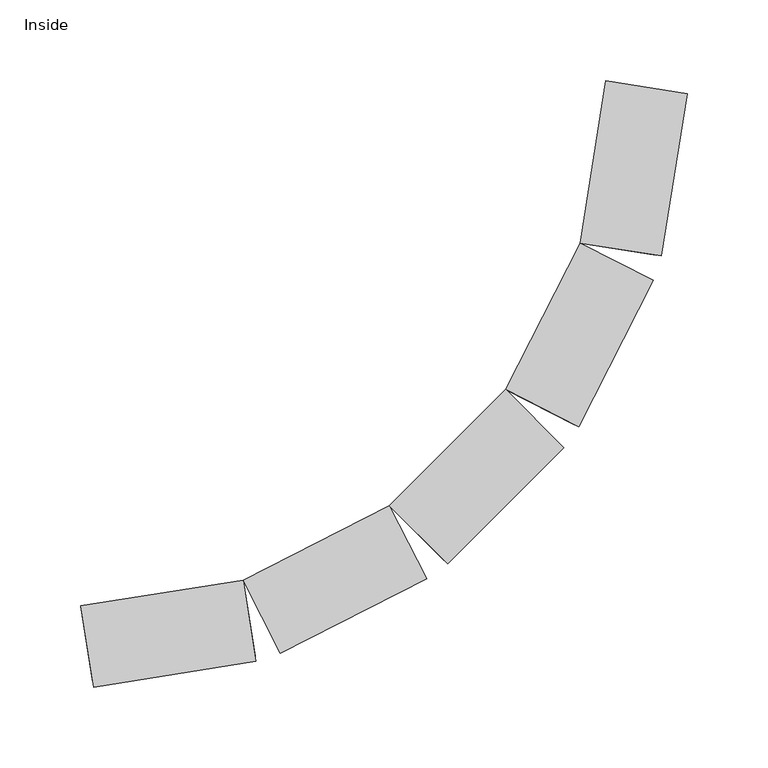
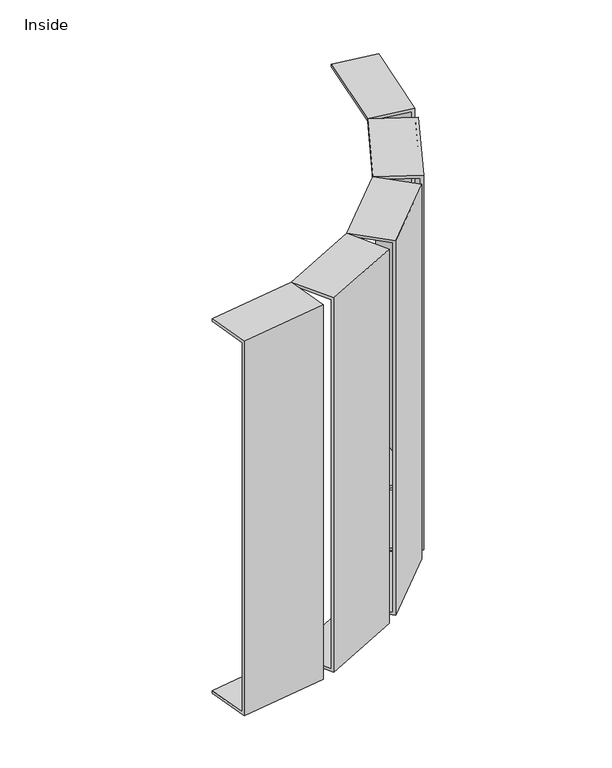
"""IFC4 building model written with IfcOpenShell, lengths in millimetres: cable carrier fitting geometry, Bend-Vertical-Cablofil-Wire_Mesh_Cable_Tray-Cablobend : Inside."""

from ifc_helpers import new_model, si_unit, frame, origin, place, context, project, spatial, polyline, outline, extrude, source, transform, mapped, element, save


def inside_2fadb0b0(model_context):
    return source(origin(), model_context, "Body", "SweptSolid", [
        extrude(outline(polyline([(-50.8, 0.0), (0.0, 0.0), (0.0, -457.2), (-50.8, -457.2), (-50.8, -454.025), (-3.175, -454.025), (-3.175, -3.175), (-50.8, -3.175), (-50.8, 0.0)])), frame((-123.3402009, 51.4981519, -228.6), z_axis=(0.7071067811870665, 0.7071067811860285, 0.0), x_axis=(0.7071067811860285, -0.7071067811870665, 0.0)), (0.0, 0.0, 1.0), 101.6),
        extrude(outline(polyline([(-50.8, 0.0), (0.0, 0.0), (0.0, -457.2), (-50.8, -457.2), (-50.8, -454.025), (-3.175, -454.025), (-3.175, -3.175), (-50.8, -3.175), (-50.8, 0.0)])), frame((-342.1897528, -24.7745677, -228.6), z_axis=(0.9876883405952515, 0.15643446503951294, 0.0), x_axis=(0.15643446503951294, -0.9876883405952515, 0.0)), (0.0, 0.0, 1.0), 101.6),
        extrude(outline(polyline([(-50.8, 0.0), (0.0, 0.0), (0.0, -457.2), (-50.8, -457.2), (-50.8, -454.025), (-3.175, -454.025), (-3.175, -3.175), (-50.8, -3.175), (-50.8, 0.0)])), frame((8.8808261, 241.8406174, -228.6), z_axis=(0.15643446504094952, 0.9876883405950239, 0.0), x_axis=(0.9876883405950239, -0.15643446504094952, 0.0)), (0.0, 0.0, 1.0), 101.6),
        extrude(outline(polyline([(-50.7999999, 0.0), (0.0, 0.0), (0.0, -457.2), (-50.7999999, -457.2), (-50.7999999, -454.025), (-3.175, -454.025), (-3.175, -3.175), (-50.7999999, -3.175), (-50.7999999, 0.0)])), frame((-226.7247709, -3.9693898, -228.6), z_axis=(0.8910065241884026, 0.45399049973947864, 0.0), x_axis=(0.45399049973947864, -0.8910065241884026, 0.0)), (0.0, 0.0, 1.0), 101.6),
        extrude(outline(polyline([(-50.8, 0.0), (0.0, 0.0), (0.0, -457.2), (-50.8, -457.2), (-50.8, -454.025), (-3.175, -454.025), (-3.175, -3.175), (-50.8, -3.175), (-50.8, 0.0)])), frame((-42.156045, 136.198508, -228.6), z_axis=(0.4539904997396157, 0.8910065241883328, 0.0), x_axis=(0.8910065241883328, -0.4539904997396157, 0.0)), (0.0, 0.0, 1.0), 101.6),
    ])


if __name__ == "__main__":
    model = new_model("IFC4")
    model_context = context("Model", 3, world=origin())
    ifc_project = project(units=[si_unit("LENGTHUNIT", "METRE", prefix="MILLI")], contexts=[model_context])
    site = spatial("IfcSite", under=ifc_project)
    building = spatial("IfcBuilding", under=site)
    placement = place(None, origin())
    inside_shape = inside_2fadb0b0(model_context)
    element("IfcCableCarrierFitting", 1, ObjectType="Bend-Vertical-Cablofil-Wire_Mesh_Cable_Tray-Cablobend : Inside", at=placement, inside=building, context=model_context, shape_type="MappedRepresentation", body=[
        mapped(inside_shape, transform((0.0, 0.0, 0.0), x_axis=(1.0, 0.0, 0.0), y_axis=(0.0, 1.0, 0.0), z_axis=(0.0, 0.0, 1.0))),
    ])
    save(model, "model.ifc")
